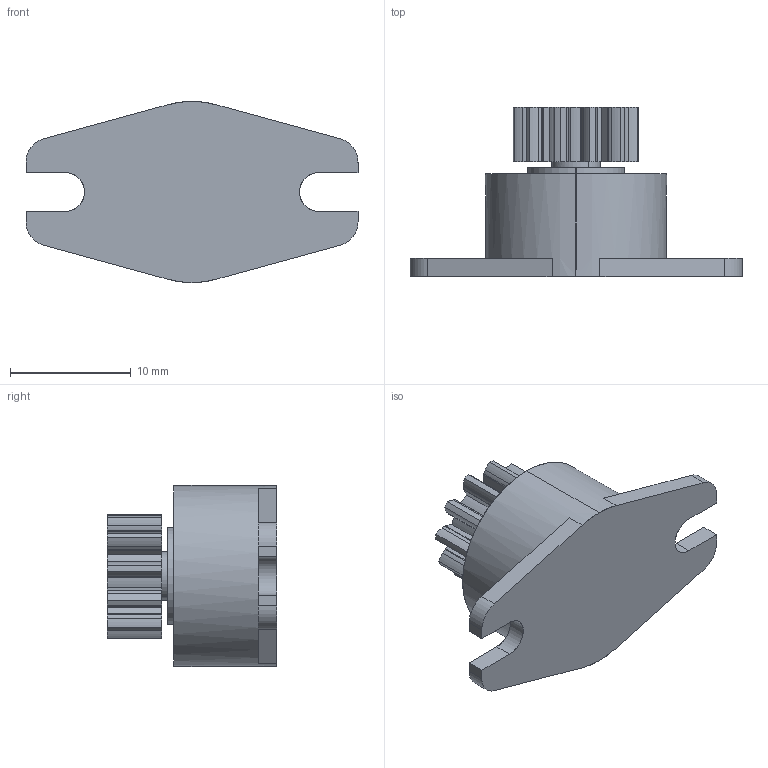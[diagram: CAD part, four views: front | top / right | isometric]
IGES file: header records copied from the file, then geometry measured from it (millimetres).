
Start section: SolidWorks IGES file using analytic representation for surfaces
Global section: file name: C:\3D-DATA\型式\R\FRT-C／FRN-C\140111\assy\IGES\FRN-C2(G1).IGS,15; native system: HSolidWorks 2014; preprocessor: SolidWorks 2014; author: flgijutsu; date: 140425.172344; units: millimetre
Bounding box: 27.5 x 14 x 15 mm (x, y, z)
Surface area: 1417.9 mm2 (no closed solid volume)
Topology: 0 solids, 0 shells, 159 faces, 1322 edges, 1322 vertices
Faces by surface type: revolution 109, bspline 50
